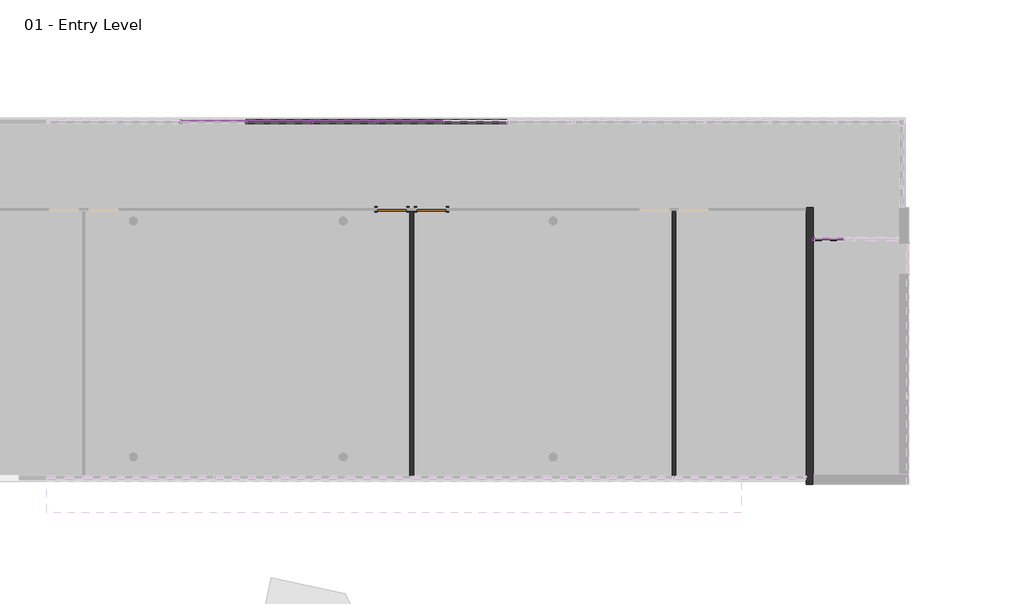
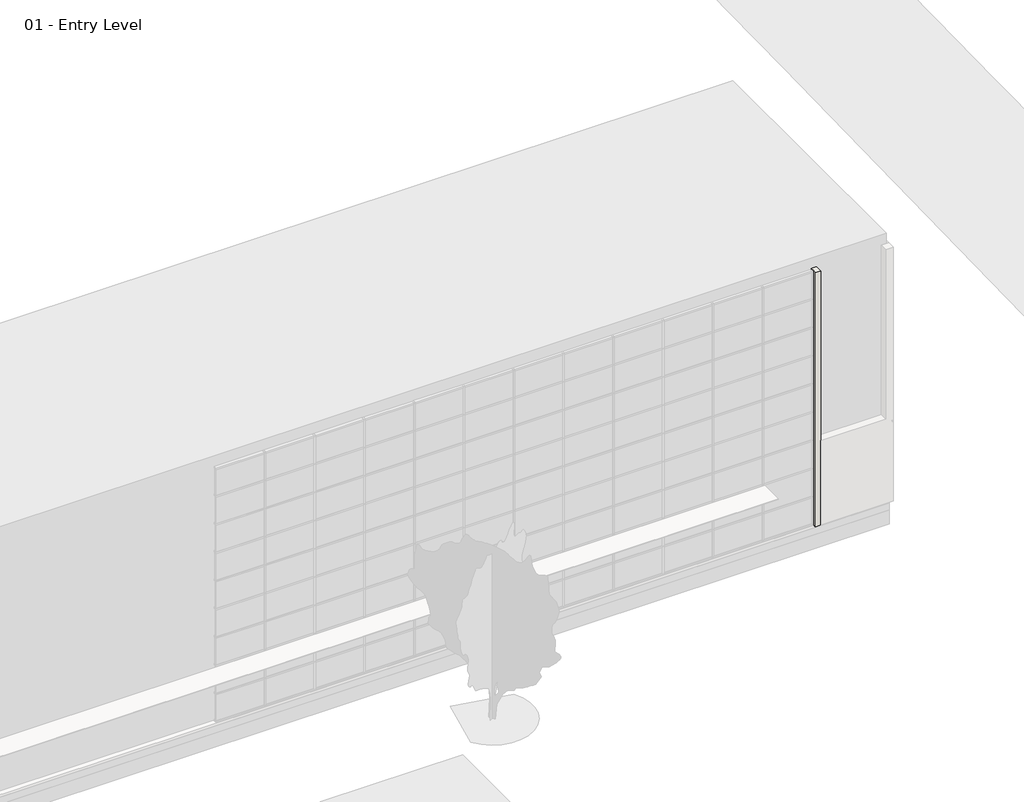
# One storey, part 20 of 35: 83 members, 38 plates, 3 doors, 3 walls.
"""IFC4 building model written with IfcOpenShell, lengths in millimetres."""

from ifc_helpers import new_model, si_unit, origin, origin_with_axes, place, context, project, spatial, polyline, outline, extrude, faceted_brep, transform, mapped, element, save
from components import curtain_wall_sgl_glass_curtain_wall_sgl_glass_ab2568d1, door_305aa2a5, door_e5f9f3c4, member_2b49869a, member_9193c932, member_391b434c, member_9e90ae50, member_c327c56d, member_a50b3cda, system_panel_glazed_1b9d6098, system_panel_glazed_70da479d, system_panel_glazed_63e32c76, system_panel_glazed_72fe8651

model = new_model("IFC4")

# Units and contexts
model_context = context("Model", 3, world=origin())
ifc_project = project(units=[si_unit("LENGTHUNIT", "METRE", prefix="MILLI")], contexts=[model_context])

# Site, building, storey
site = spatial("IfcSite", under=ifc_project)
building = spatial("IfcBuilding", under=site)
storey = spatial("IfcBuildingStorey", under=building, Name="01 - Entry Level", Elevation=0.0)

# Doors
placement = place(None, origin())
curtain_wall_sgl_glass_curtain_wall_sgl_glass_shape = curtain_wall_sgl_glass_curtain_wall_sgl_glass_ab2568d1(model_context)
element("IfcDoor", 1, ObjectType="Curtain Wall Sgl Glass : Curtain Wall Sgl Glass", at=placement, inside=storey, context=model_context, shape_type="MappedRepresentation", body=[
    mapped(curtain_wall_sgl_glass_curtain_wall_sgl_glass_shape, transform((63869.2207476, 7356.4, 0.0), x_axis=(-1.0, 0.0, 0.0), y_axis=(0.0, -1.0, 0.0), z_axis=(0.0, 0.0, 1.0))),
])
door_shape = door_305aa2a5(model_context)
element("IfcDoor", 2, ObjectType="Single-Flush : 36\" x 84\"", at=placement, inside=storey, context=model_context, shape_type="MappedRepresentation", body=[
    mapped(door_shape, transform((50305.6207476, 8277.15, 0.0), x_axis=(1.0, 0.0, 0.0), y_axis=(0.0, 1.0, 0.0), z_axis=(0.0, 0.0, 1.0))),
])
door_2_shape = door_e5f9f3c4(model_context)
element("IfcDoor", 3, ObjectType="Single-Flush : 36\" x 84\"", at=placement, inside=storey, context=model_context, shape_type="MappedRepresentation", body=[
    mapped(door_2_shape, transform((51524.8207476, 8277.15, 0.0), x_axis=(-1.0, 0.0, 0.0), y_axis=(0.0, -1.0, 0.0), z_axis=(0.0, 0.0, 1.0))),
])

# Members
member_shape = member_2b49869a(model_context)
element("IfcMember", 4, ObjectType="Rectangular Mullion : 2.5\" x 5\" rectangular", at=placement, inside=storey, context=model_context, shape_type="MappedRepresentation", body=[
    mapped(member_shape, transform((51880.4207476, 11001.3, 9753.6), x_axis=(-1.0, 0.0, 0.0), y_axis=(0.0, 1.0, 0.0), z_axis=(0.0, 0.0, -1.0))),
])
element("IfcMember", 5, ObjectType="Rectangular Mullion : 2.5\" x 5\" rectangular", at=placement, inside=storey, context=model_context, shape_type="MappedRepresentation", body=[
    mapped(member_shape, transform((49848.4207476, 11001.3, 9753.6), x_axis=(-1.0, 0.0, 0.0), y_axis=(0.0, 1.0, 0.0), z_axis=(0.0, 0.0, -1.0))),
])
element("IfcMember", 6, ObjectType="Rectangular Mullion : 2.5\" x 5\" rectangular", at=placement, inside=storey, context=model_context, shape_type="MappedRepresentation", body=[
    mapped(member_shape, transform((47816.4207476, 11001.3, 9753.6), x_axis=(-1.0, 0.0, 0.0), y_axis=(0.0, 1.0, 0.0), z_axis=(0.0, 0.0, -1.0))),
])
element("IfcMember", 7, ObjectType="Rectangular Mullion : 2.5\" x 5\" rectangular", at=placement, inside=storey, context=model_context, shape_type="MappedRepresentation", body=[
    mapped(member_shape, transform((45784.4207476, 11001.3, 9753.6), x_axis=(-1.0, 0.0, 0.0), y_axis=(0.0, 1.0, 0.0), z_axis=(0.0, 0.0, -1.0))),
])
element("IfcMember", 8, ObjectType="Rectangular Mullion : 2.5\" x 5\" rectangular", at=placement, inside=storey, context=model_context, shape_type="MappedRepresentation", body=[
    mapped(member_shape, transform((43752.4207476, 11001.3, 9753.6), x_axis=(-1.0, 0.0, 0.0), y_axis=(0.0, 1.0, 0.0), z_axis=(0.0, 0.0, -1.0))),
])
member_2_shape = member_9193c932(model_context)
element("IfcMember", 9, ObjectType="Rectangular Mullion : 2.5\" x 5\" rectangular", at=placement, inside=storey, context=model_context, shape_type="MappedRepresentation", body=[
    mapped(member_2_shape, transform((63348.5207476, 7356.4, 3403.6), x_axis=(-1.0, 0.0, 0.0), y_axis=(0.0, -1.0, 0.0), z_axis=(0.0, 0.0, 1.0))),
])
member_3_shape = member_391b434c(model_context)
element("IfcMember", 10, ObjectType="Rectangular Mullion : 2.5\" x 5\" rectangular", at=placement, inside=storey, context=model_context, shape_type="MappedRepresentation", body=[
    mapped(member_3_shape, transform((51912.1707476, 11001.3, 10972.8), x_axis=(0.0, 0.0, 1.0), y_axis=(0.0, 1.0, 0.0), z_axis=(-1.0, 0.0, 0.0))),
])
element("IfcMember", 11, ObjectType="Rectangular Mullion : 2.5\" x 5\" rectangular", at=placement, inside=storey, context=model_context, shape_type="MappedRepresentation", body=[
    mapped(member_3_shape, transform((49880.1707476, 11001.3, 10972.8), x_axis=(0.0, 0.0, 1.0), y_axis=(0.0, 1.0, 0.0), z_axis=(-1.0, 0.0, 0.0))),
])
element("IfcMember", 12, ObjectType="Rectangular Mullion : 2.5\" x 5\" rectangular", at=placement, inside=storey, context=model_context, shape_type="MappedRepresentation", body=[
    mapped(member_3_shape, transform((47848.1707476, 11001.3, 10972.8), x_axis=(0.0, 0.0, 1.0), y_axis=(0.0, 1.0, 0.0), z_axis=(-1.0, 0.0, 0.0))),
])
element("IfcMember", 13, ObjectType="Rectangular Mullion : 2.5\" x 5\" rectangular", at=placement, inside=storey, context=model_context, shape_type="MappedRepresentation", body=[
    mapped(member_3_shape, transform((45816.1707476, 11001.3, 10972.8), x_axis=(0.0, 0.0, 1.0), y_axis=(0.0, 1.0, 0.0), z_axis=(-1.0, 0.0, 0.0))),
])
element("IfcMember", 14, ObjectType="Rectangular Mullion : 2.5\" x 5\" rectangular", at=placement, inside=storey, context=model_context, shape_type="MappedRepresentation", body=[
    mapped(member_3_shape, transform((51848.6707476, 11001.3, 0.0), x_axis=(0.0, 0.0, -1.0), y_axis=(0.0, 1.0, 0.0), z_axis=(1.0, 0.0, 0.0))),
])
element("IfcMember", 15, ObjectType="Rectangular Mullion : 2.5\" x 5\" rectangular", at=placement, inside=storey, context=model_context, shape_type="MappedRepresentation", body=[
    mapped(member_3_shape, transform((49816.6707476, 11001.3, 0.0), x_axis=(0.0, 0.0, -1.0), y_axis=(0.0, 1.0, 0.0), z_axis=(1.0, 0.0, 0.0))),
])
element("IfcMember", 16, ObjectType="Rectangular Mullion : 2.5\" x 5\" rectangular", at=placement, inside=storey, context=model_context, shape_type="MappedRepresentation", body=[
    mapped(member_3_shape, transform((47784.6707476, 11001.3, 0.0), x_axis=(0.0, 0.0, -1.0), y_axis=(0.0, 1.0, 0.0), z_axis=(1.0, 0.0, 0.0))),
])
element("IfcMember", 17, ObjectType="Rectangular Mullion : 2.5\" x 5\" rectangular", at=placement, inside=storey, context=model_context, shape_type="MappedRepresentation", body=[
    mapped(member_3_shape, transform((45752.6707476, 11001.3, 0.0), x_axis=(0.0, 0.0, -1.0), y_axis=(0.0, 1.0, 0.0), z_axis=(1.0, 0.0, 0.0))),
])
member_4_shape = member_9e90ae50(model_context)
element("IfcMember", 18, ObjectType="Rectangular Mullion : 2.5\" x 5\" rectangular", at=placement, inside=storey, context=model_context, shape_type="MappedRepresentation", body=[
    mapped(member_4_shape, transform((51912.1707476, 11001.3, 1219.2), x_axis=(0.0, 0.0, 1.0), y_axis=(0.0, 1.0, 0.0), z_axis=(-1.0, 0.0, 0.0))),
])
element("IfcMember", 19, ObjectType="Rectangular Mullion : 2.5\" x 5\" rectangular", at=placement, inside=storey, context=model_context, shape_type="MappedRepresentation", body=[
    mapped(member_4_shape, transform((49880.1707476, 11001.3, 1219.2), x_axis=(0.0, 0.0, 1.0), y_axis=(0.0, 1.0, 0.0), z_axis=(-1.0, 0.0, 0.0))),
])
element("IfcMember", 20, ObjectType="Rectangular Mullion : 2.5\" x 5\" rectangular", at=placement, inside=storey, context=model_context, shape_type="MappedRepresentation", body=[
    mapped(member_4_shape, transform((47848.1707476, 11001.3, 1219.2), x_axis=(0.0, 0.0, 1.0), y_axis=(0.0, 1.0, 0.0), z_axis=(-1.0, 0.0, 0.0))),
])
element("IfcMember", 21, ObjectType="Rectangular Mullion : 2.5\" x 5\" rectangular", at=placement, inside=storey, context=model_context, shape_type="MappedRepresentation", body=[
    mapped(member_4_shape, transform((45816.1707476, 11001.3, 1219.2), x_axis=(0.0, 0.0, 1.0), y_axis=(0.0, 1.0, 0.0), z_axis=(-1.0, 0.0, 0.0))),
])
element("IfcMember", 22, ObjectType="Rectangular Mullion : 2.5\" x 5\" rectangular", at=placement, inside=storey, context=model_context, shape_type="MappedRepresentation", body=[
    mapped(member_4_shape, transform((51912.1707476, 11001.3, 2438.4), x_axis=(0.0, 0.0, 1.0), y_axis=(0.0, 1.0, 0.0), z_axis=(-1.0, 0.0, 0.0))),
])
element("IfcMember", 23, ObjectType="Rectangular Mullion : 2.5\" x 5\" rectangular", at=placement, inside=storey, context=model_context, shape_type="MappedRepresentation", body=[
    mapped(member_4_shape, transform((49880.1707476, 11001.3, 2438.4), x_axis=(0.0, 0.0, 1.0), y_axis=(0.0, 1.0, 0.0), z_axis=(-1.0, 0.0, 0.0))),
])
element("IfcMember", 24, ObjectType="Rectangular Mullion : 2.5\" x 5\" rectangular", at=placement, inside=storey, context=model_context, shape_type="MappedRepresentation", body=[
    mapped(member_4_shape, transform((47848.1707476, 11001.3, 2438.4), x_axis=(0.0, 0.0, 1.0), y_axis=(0.0, 1.0, 0.0), z_axis=(-1.0, 0.0, 0.0))),
])
element("IfcMember", 25, ObjectType="Rectangular Mullion : 2.5\" x 5\" rectangular", at=placement, inside=storey, context=model_context, shape_type="MappedRepresentation", body=[
    mapped(member_4_shape, transform((45816.1707476, 11001.3, 2438.4), x_axis=(0.0, 0.0, 1.0), y_axis=(0.0, 1.0, 0.0), z_axis=(-1.0, 0.0, 0.0))),
])
element("IfcMember", 26, ObjectType="Rectangular Mullion : 2.5\" x 5\" rectangular", at=placement, inside=storey, context=model_context, shape_type="MappedRepresentation", body=[
    mapped(member_4_shape, transform((51912.1707476, 11001.3, 3657.6), x_axis=(0.0, 0.0, 1.0), y_axis=(0.0, 1.0, 0.0), z_axis=(-1.0, 0.0, 0.0))),
])
element("IfcMember", 27, ObjectType="Rectangular Mullion : 2.5\" x 5\" rectangular", at=placement, inside=storey, context=model_context, shape_type="MappedRepresentation", body=[
    mapped(member_4_shape, transform((49880.1707476, 11001.3, 3657.6), x_axis=(0.0, 0.0, 1.0), y_axis=(0.0, 1.0, 0.0), z_axis=(-1.0, 0.0, 0.0))),
])
element("IfcMember", 28, ObjectType="Rectangular Mullion : 2.5\" x 5\" rectangular", at=placement, inside=storey, context=model_context, shape_type="MappedRepresentation", body=[
    mapped(member_4_shape, transform((47848.1707476, 11001.3, 3657.6), x_axis=(0.0, 0.0, 1.0), y_axis=(0.0, 1.0, 0.0), z_axis=(-1.0, 0.0, 0.0))),
])
element("IfcMember", 29, ObjectType="Rectangular Mullion : 2.5\" x 5\" rectangular", at=placement, inside=storey, context=model_context, shape_type="MappedRepresentation", body=[
    mapped(member_4_shape, transform((45816.1707476, 11001.3, 3657.6), x_axis=(0.0, 0.0, 1.0), y_axis=(0.0, 1.0, 0.0), z_axis=(-1.0, 0.0, 0.0))),
])
element("IfcMember", 30, ObjectType="Rectangular Mullion : 2.5\" x 5\" rectangular", at=placement, inside=storey, context=model_context, shape_type="MappedRepresentation", body=[
    mapped(member_4_shape, transform((51912.1707476, 11001.3, 4876.8), x_axis=(0.0, 0.0, 1.0), y_axis=(0.0, 1.0, 0.0), z_axis=(-1.0, 0.0, 0.0))),
])
element("IfcMember", 31, ObjectType="Rectangular Mullion : 2.5\" x 5\" rectangular", at=placement, inside=storey, context=model_context, shape_type="MappedRepresentation", body=[
    mapped(member_4_shape, transform((49880.1707476, 11001.3, 4876.8), x_axis=(0.0, 0.0, 1.0), y_axis=(0.0, 1.0, 0.0), z_axis=(-1.0, 0.0, 0.0))),
])
element("IfcMember", 32, ObjectType="Rectangular Mullion : 2.5\" x 5\" rectangular", at=placement, inside=storey, context=model_context, shape_type="MappedRepresentation", body=[
    mapped(member_4_shape, transform((47848.1707476, 11001.3, 4876.8), x_axis=(0.0, 0.0, 1.0), y_axis=(0.0, 1.0, 0.0), z_axis=(-1.0, 0.0, 0.0))),
])
element("IfcMember", 33, ObjectType="Rectangular Mullion : 2.5\" x 5\" rectangular", at=placement, inside=storey, context=model_context, shape_type="MappedRepresentation", body=[
    mapped(member_4_shape, transform((45816.1707476, 11001.3, 4876.8), x_axis=(0.0, 0.0, 1.0), y_axis=(0.0, 1.0, 0.0), z_axis=(-1.0, 0.0, 0.0))),
])
element("IfcMember", 34, ObjectType="Rectangular Mullion : 2.5\" x 5\" rectangular", at=placement, inside=storey, context=model_context, shape_type="MappedRepresentation", body=[
    mapped(member_4_shape, transform((51912.1707476, 11001.3, 6096.0), x_axis=(0.0, 0.0, 1.0), y_axis=(0.0, 1.0, 0.0), z_axis=(-1.0, 0.0, 0.0))),
])
element("IfcMember", 35, ObjectType="Rectangular Mullion : 2.5\" x 5\" rectangular", at=placement, inside=storey, context=model_context, shape_type="MappedRepresentation", body=[
    mapped(member_4_shape, transform((49880.1707476, 11001.3, 6096.0), x_axis=(0.0, 0.0, 1.0), y_axis=(0.0, 1.0, 0.0), z_axis=(-1.0, 0.0, 0.0))),
])
element("IfcMember", 36, ObjectType="Rectangular Mullion : 2.5\" x 5\" rectangular", at=placement, inside=storey, context=model_context, shape_type="MappedRepresentation", body=[
    mapped(member_4_shape, transform((47848.1707476, 11001.3, 6096.0), x_axis=(0.0, 0.0, 1.0), y_axis=(0.0, 1.0, 0.0), z_axis=(-1.0, 0.0, 0.0))),
])
element("IfcMember", 37, ObjectType="Rectangular Mullion : 2.5\" x 5\" rectangular", at=placement, inside=storey, context=model_context, shape_type="MappedRepresentation", body=[
    mapped(member_4_shape, transform((45816.1707476, 11001.3, 6096.0), x_axis=(0.0, 0.0, 1.0), y_axis=(0.0, 1.0, 0.0), z_axis=(-1.0, 0.0, 0.0))),
])
element("IfcMember", 38, ObjectType="Rectangular Mullion : 2.5\" x 5\" rectangular", at=placement, inside=storey, context=model_context, shape_type="MappedRepresentation", body=[
    mapped(member_4_shape, transform((51912.1707476, 11001.3, 7315.2), x_axis=(0.0, 0.0, 1.0), y_axis=(0.0, 1.0, 0.0), z_axis=(-1.0, 0.0, 0.0))),
])
element("IfcMember", 39, ObjectType="Rectangular Mullion : 2.5\" x 5\" rectangular", at=placement, inside=storey, context=model_context, shape_type="MappedRepresentation", body=[
    mapped(member_4_shape, transform((49880.1707476, 11001.3, 7315.2), x_axis=(0.0, 0.0, 1.0), y_axis=(0.0, 1.0, 0.0), z_axis=(-1.0, 0.0, 0.0))),
])
element("IfcMember", 40, ObjectType="Rectangular Mullion : 2.5\" x 5\" rectangular", at=placement, inside=storey, context=model_context, shape_type="MappedRepresentation", body=[
    mapped(member_4_shape, transform((47848.1707476, 11001.3, 7315.2), x_axis=(0.0, 0.0, 1.0), y_axis=(0.0, 1.0, 0.0), z_axis=(-1.0, 0.0, 0.0))),
])
element("IfcMember", 41, ObjectType="Rectangular Mullion : 2.5\" x 5\" rectangular", at=placement, inside=storey, context=model_context, shape_type="MappedRepresentation", body=[
    mapped(member_4_shape, transform((45816.1707476, 11001.3, 7315.2), x_axis=(0.0, 0.0, 1.0), y_axis=(0.0, 1.0, 0.0), z_axis=(-1.0, 0.0, 0.0))),
])
element("IfcMember", 42, ObjectType="Rectangular Mullion : 2.5\" x 5\" rectangular", at=placement, inside=storey, context=model_context, shape_type="MappedRepresentation", body=[
    mapped(member_4_shape, transform((51912.1707476, 11001.3, 8534.4), x_axis=(0.0, 0.0, 1.0), y_axis=(0.0, 1.0, 0.0), z_axis=(-1.0, 0.0, 0.0))),
])
element("IfcMember", 43, ObjectType="Rectangular Mullion : 2.5\" x 5\" rectangular", at=placement, inside=storey, context=model_context, shape_type="MappedRepresentation", body=[
    mapped(member_4_shape, transform((49880.1707476, 11001.3, 8534.4), x_axis=(0.0, 0.0, 1.0), y_axis=(0.0, 1.0, 0.0), z_axis=(-1.0, 0.0, 0.0))),
])
element("IfcMember", 44, ObjectType="Rectangular Mullion : 2.5\" x 5\" rectangular", at=placement, inside=storey, context=model_context, shape_type="MappedRepresentation", body=[
    mapped(member_4_shape, transform((47848.1707476, 11001.3, 8534.4), x_axis=(0.0, 0.0, 1.0), y_axis=(0.0, 1.0, 0.0), z_axis=(-1.0, 0.0, 0.0))),
])
element("IfcMember", 45, ObjectType="Rectangular Mullion : 2.5\" x 5\" rectangular", at=placement, inside=storey, context=model_context, shape_type="MappedRepresentation", body=[
    mapped(member_4_shape, transform((45816.1707476, 11001.3, 8534.4), x_axis=(0.0, 0.0, 1.0), y_axis=(0.0, 1.0, 0.0), z_axis=(-1.0, 0.0, 0.0))),
])
element("IfcMember", 46, ObjectType="Rectangular Mullion : 2.5\" x 5\" rectangular", at=placement, inside=storey, context=model_context, shape_type="MappedRepresentation", body=[
    mapped(member_4_shape, transform((51912.1707476, 11001.3, 9753.6), x_axis=(0.0, 0.0, 1.0), y_axis=(0.0, 1.0, 0.0), z_axis=(-1.0, 0.0, 0.0))),
])
element("IfcMember", 47, ObjectType="Rectangular Mullion : 2.5\" x 5\" rectangular", at=placement, inside=storey, context=model_context, shape_type="MappedRepresentation", body=[
    mapped(member_4_shape, transform((49880.1707476, 11001.3, 9753.6), x_axis=(0.0, 0.0, 1.0), y_axis=(0.0, 1.0, 0.0), z_axis=(-1.0, 0.0, 0.0))),
])
element("IfcMember", 48, ObjectType="Rectangular Mullion : 2.5\" x 5\" rectangular", at=placement, inside=storey, context=model_context, shape_type="MappedRepresentation", body=[
    mapped(member_4_shape, transform((47848.1707476, 11001.3, 9753.6), x_axis=(0.0, 0.0, 1.0), y_axis=(0.0, 1.0, 0.0), z_axis=(-1.0, 0.0, 0.0))),
])
element("IfcMember", 49, ObjectType="Rectangular Mullion : 2.5\" x 5\" rectangular", at=placement, inside=storey, context=model_context, shape_type="MappedRepresentation", body=[
    mapped(member_4_shape, transform((45816.1707476, 11001.3, 9753.6), x_axis=(0.0, 0.0, 1.0), y_axis=(0.0, 1.0, 0.0), z_axis=(-1.0, 0.0, 0.0))),
])
element("IfcMember", 50, ObjectType="Rectangular Mullion : 2.5\" x 5\" rectangular", at=placement, inside=storey, context=model_context, shape_type="MappedRepresentation", body=[
    mapped(member_shape, transform((51880.4207476, 11001.3, 0.0), x_axis=(-1.0, 0.0, 0.0), y_axis=(0.0, 1.0, 0.0), z_axis=(0.0, 0.0, -1.0))),
])
element("IfcMember", 51, ObjectType="Rectangular Mullion : 2.5\" x 5\" rectangular", at=placement, inside=storey, context=model_context, shape_type="MappedRepresentation", body=[
    mapped(member_shape, transform((49848.4207476, 11001.3, 0.0), x_axis=(-1.0, 0.0, 0.0), y_axis=(0.0, 1.0, 0.0), z_axis=(0.0, 0.0, -1.0))),
])
element("IfcMember", 52, ObjectType="Rectangular Mullion : 2.5\" x 5\" rectangular", at=placement, inside=storey, context=model_context, shape_type="MappedRepresentation", body=[
    mapped(member_shape, transform((47816.4207476, 11001.3, 0.0), x_axis=(-1.0, 0.0, 0.0), y_axis=(0.0, 1.0, 0.0), z_axis=(0.0, 0.0, -1.0))),
])
element("IfcMember", 53, ObjectType="Rectangular Mullion : 2.5\" x 5\" rectangular", at=placement, inside=storey, context=model_context, shape_type="MappedRepresentation", body=[
    mapped(member_shape, transform((45784.4207476, 11001.3, 0.0), x_axis=(-1.0, 0.0, 0.0), y_axis=(0.0, 1.0, 0.0), z_axis=(0.0, 0.0, -1.0))),
])
element("IfcMember", 54, ObjectType="Rectangular Mullion : 2.5\" x 5\" rectangular", at=placement, inside=storey, context=model_context, shape_type="MappedRepresentation", body=[
    mapped(member_shape, transform((51880.4207476, 11001.3, 1219.2), x_axis=(-1.0, 0.0, 0.0), y_axis=(0.0, 1.0, 0.0), z_axis=(0.0, 0.0, -1.0))),
])
element("IfcMember", 55, ObjectType="Rectangular Mullion : 2.5\" x 5\" rectangular", at=placement, inside=storey, context=model_context, shape_type="MappedRepresentation", body=[
    mapped(member_shape, transform((49848.4207476, 11001.3, 1219.2), x_axis=(-1.0, 0.0, 0.0), y_axis=(0.0, 1.0, 0.0), z_axis=(0.0, 0.0, -1.0))),
])
element("IfcMember", 56, ObjectType="Rectangular Mullion : 2.5\" x 5\" rectangular", at=placement, inside=storey, context=model_context, shape_type="MappedRepresentation", body=[
    mapped(member_shape, transform((47816.4207476, 11001.3, 1219.2), x_axis=(-1.0, 0.0, 0.0), y_axis=(0.0, 1.0, 0.0), z_axis=(0.0, 0.0, -1.0))),
])
element("IfcMember", 57, ObjectType="Rectangular Mullion : 2.5\" x 5\" rectangular", at=placement, inside=storey, context=model_context, shape_type="MappedRepresentation", body=[
    mapped(member_shape, transform((45784.4207476, 11001.3, 1219.2), x_axis=(-1.0, 0.0, 0.0), y_axis=(0.0, 1.0, 0.0), z_axis=(0.0, 0.0, -1.0))),
])
element("IfcMember", 58, ObjectType="Rectangular Mullion : 2.5\" x 5\" rectangular", at=placement, inside=storey, context=model_context, shape_type="MappedRepresentation", body=[
    mapped(member_shape, transform((51880.4207476, 11001.3, 2438.4), x_axis=(-1.0, 0.0, 0.0), y_axis=(0.0, 1.0, 0.0), z_axis=(0.0, 0.0, -1.0))),
])
element("IfcMember", 59, ObjectType="Rectangular Mullion : 2.5\" x 5\" rectangular", at=placement, inside=storey, context=model_context, shape_type="MappedRepresentation", body=[
    mapped(member_shape, transform((49848.4207476, 11001.3, 2438.4), x_axis=(-1.0, 0.0, 0.0), y_axis=(0.0, 1.0, 0.0), z_axis=(0.0, 0.0, -1.0))),
])
element("IfcMember", 60, ObjectType="Rectangular Mullion : 2.5\" x 5\" rectangular", at=placement, inside=storey, context=model_context, shape_type="MappedRepresentation", body=[
    mapped(member_shape, transform((47816.4207476, 11001.3, 2438.4), x_axis=(-1.0, 0.0, 0.0), y_axis=(0.0, 1.0, 0.0), z_axis=(0.0, 0.0, -1.0))),
])
element("IfcMember", 61, ObjectType="Rectangular Mullion : 2.5\" x 5\" rectangular", at=placement, inside=storey, context=model_context, shape_type="MappedRepresentation", body=[
    mapped(member_shape, transform((45784.4207476, 11001.3, 2438.4), x_axis=(-1.0, 0.0, 0.0), y_axis=(0.0, 1.0, 0.0), z_axis=(0.0, 0.0, -1.0))),
])
element("IfcMember", 62, ObjectType="Rectangular Mullion : 2.5\" x 5\" rectangular", at=placement, inside=storey, context=model_context, shape_type="MappedRepresentation", body=[
    mapped(member_shape, transform((51880.4207476, 11001.3, 3657.6), x_axis=(-1.0, 0.0, 0.0), y_axis=(0.0, 1.0, 0.0), z_axis=(0.0, 0.0, -1.0))),
])
element("IfcMember", 63, ObjectType="Rectangular Mullion : 2.5\" x 5\" rectangular", at=placement, inside=storey, context=model_context, shape_type="MappedRepresentation", body=[
    mapped(member_shape, transform((49848.4207476, 11001.3, 3657.6), x_axis=(-1.0, 0.0, 0.0), y_axis=(0.0, 1.0, 0.0), z_axis=(0.0, 0.0, -1.0))),
])
element("IfcMember", 64, ObjectType="Rectangular Mullion : 2.5\" x 5\" rectangular", at=placement, inside=storey, context=model_context, shape_type="MappedRepresentation", body=[
    mapped(member_shape, transform((47816.4207476, 11001.3, 3657.6), x_axis=(-1.0, 0.0, 0.0), y_axis=(0.0, 1.0, 0.0), z_axis=(0.0, 0.0, -1.0))),
])
element("IfcMember", 65, ObjectType="Rectangular Mullion : 2.5\" x 5\" rectangular", at=placement, inside=storey, context=model_context, shape_type="MappedRepresentation", body=[
    mapped(member_shape, transform((45784.4207476, 11001.3, 3657.6), x_axis=(-1.0, 0.0, 0.0), y_axis=(0.0, 1.0, 0.0), z_axis=(0.0, 0.0, -1.0))),
])
element("IfcMember", 66, ObjectType="Rectangular Mullion : 2.5\" x 5\" rectangular", at=placement, inside=storey, context=model_context, shape_type="MappedRepresentation", body=[
    mapped(member_shape, transform((51880.4207476, 11001.3, 4876.8), x_axis=(-1.0, 0.0, 0.0), y_axis=(0.0, 1.0, 0.0), z_axis=(0.0, 0.0, -1.0))),
])
element("IfcMember", 67, ObjectType="Rectangular Mullion : 2.5\" x 5\" rectangular", at=placement, inside=storey, context=model_context, shape_type="MappedRepresentation", body=[
    mapped(member_shape, transform((49848.4207476, 11001.3, 4876.8), x_axis=(-1.0, 0.0, 0.0), y_axis=(0.0, 1.0, 0.0), z_axis=(0.0, 0.0, -1.0))),
])
element("IfcMember", 68, ObjectType="Rectangular Mullion : 2.5\" x 5\" rectangular", at=placement, inside=storey, context=model_context, shape_type="MappedRepresentation", body=[
    mapped(member_shape, transform((47816.4207476, 11001.3, 4876.8), x_axis=(-1.0, 0.0, 0.0), y_axis=(0.0, 1.0, 0.0), z_axis=(0.0, 0.0, -1.0))),
])
element("IfcMember", 69, ObjectType="Rectangular Mullion : 2.5\" x 5\" rectangular", at=placement, inside=storey, context=model_context, shape_type="MappedRepresentation", body=[
    mapped(member_shape, transform((45784.4207476, 11001.3, 4876.8), x_axis=(-1.0, 0.0, 0.0), y_axis=(0.0, 1.0, 0.0), z_axis=(0.0, 0.0, -1.0))),
])
element("IfcMember", 70, ObjectType="Rectangular Mullion : 2.5\" x 5\" rectangular", at=placement, inside=storey, context=model_context, shape_type="MappedRepresentation", body=[
    mapped(member_shape, transform((51880.4207476, 11001.3, 6096.0), x_axis=(-1.0, 0.0, 0.0), y_axis=(0.0, 1.0, 0.0), z_axis=(0.0, 0.0, -1.0))),
])
element("IfcMember", 71, ObjectType="Rectangular Mullion : 2.5\" x 5\" rectangular", at=placement, inside=storey, context=model_context, shape_type="MappedRepresentation", body=[
    mapped(member_shape, transform((49848.4207476, 11001.3, 6096.0), x_axis=(-1.0, 0.0, 0.0), y_axis=(0.0, 1.0, 0.0), z_axis=(0.0, 0.0, -1.0))),
])
element("IfcMember", 72, ObjectType="Rectangular Mullion : 2.5\" x 5\" rectangular", at=placement, inside=storey, context=model_context, shape_type="MappedRepresentation", body=[
    mapped(member_shape, transform((47816.4207476, 11001.3, 6096.0), x_axis=(-1.0, 0.0, 0.0), y_axis=(0.0, 1.0, 0.0), z_axis=(0.0, 0.0, -1.0))),
])
element("IfcMember", 73, ObjectType="Rectangular Mullion : 2.5\" x 5\" rectangular", at=placement, inside=storey, context=model_context, shape_type="MappedRepresentation", body=[
    mapped(member_shape, transform((45784.4207476, 11001.3, 6096.0), x_axis=(-1.0, 0.0, 0.0), y_axis=(0.0, 1.0, 0.0), z_axis=(0.0, 0.0, -1.0))),
])
element("IfcMember", 74, ObjectType="Rectangular Mullion : 2.5\" x 5\" rectangular", at=placement, inside=storey, context=model_context, shape_type="MappedRepresentation", body=[
    mapped(member_shape, transform((43752.4207476, 11001.3, 6096.0), x_axis=(-1.0, 0.0, 0.0), y_axis=(0.0, 1.0, 0.0), z_axis=(0.0, 0.0, -1.0))),
])
element("IfcMember", 75, ObjectType="Rectangular Mullion : 2.5\" x 5\" rectangular", at=placement, inside=storey, context=model_context, shape_type="MappedRepresentation", body=[
    mapped(member_shape, transform((51880.4207476, 11001.3, 7315.2), x_axis=(-1.0, 0.0, 0.0), y_axis=(0.0, 1.0, 0.0), z_axis=(0.0, 0.0, -1.0))),
])
element("IfcMember", 76, ObjectType="Rectangular Mullion : 2.5\" x 5\" rectangular", at=placement, inside=storey, context=model_context, shape_type="MappedRepresentation", body=[
    mapped(member_shape, transform((49848.4207476, 11001.3, 7315.2), x_axis=(-1.0, 0.0, 0.0), y_axis=(0.0, 1.0, 0.0), z_axis=(0.0, 0.0, -1.0))),
])
element("IfcMember", 77, ObjectType="Rectangular Mullion : 2.5\" x 5\" rectangular", at=placement, inside=storey, context=model_context, shape_type="MappedRepresentation", body=[
    mapped(member_shape, transform((47816.4207476, 11001.3, 7315.2), x_axis=(-1.0, 0.0, 0.0), y_axis=(0.0, 1.0, 0.0), z_axis=(0.0, 0.0, -1.0))),
])
element("IfcMember", 78, ObjectType="Rectangular Mullion : 2.5\" x 5\" rectangular", at=placement, inside=storey, context=model_context, shape_type="MappedRepresentation", body=[
    mapped(member_shape, transform((45784.4207476, 11001.3, 7315.2), x_axis=(-1.0, 0.0, 0.0), y_axis=(0.0, 1.0, 0.0), z_axis=(0.0, 0.0, -1.0))),
])
element("IfcMember", 79, ObjectType="Rectangular Mullion : 2.5\" x 5\" rectangular", at=placement, inside=storey, context=model_context, shape_type="MappedRepresentation", body=[
    mapped(member_shape, transform((43752.4207476, 11001.3, 7315.2), x_axis=(-1.0, 0.0, 0.0), y_axis=(0.0, 1.0, 0.0), z_axis=(0.0, 0.0, -1.0))),
])
element("IfcMember", 80, ObjectType="Rectangular Mullion : 2.5\" x 5\" rectangular", at=placement, inside=storey, context=model_context, shape_type="MappedRepresentation", body=[
    mapped(member_shape, transform((51880.4207476, 11001.3, 8534.4), x_axis=(-1.0, 0.0, 0.0), y_axis=(0.0, 1.0, 0.0), z_axis=(0.0, 0.0, -1.0))),
])
element("IfcMember", 81, ObjectType="Rectangular Mullion : 2.5\" x 5\" rectangular", at=placement, inside=storey, context=model_context, shape_type="MappedRepresentation", body=[
    mapped(member_shape, transform((49848.4207476, 11001.3, 8534.4), x_axis=(-1.0, 0.0, 0.0), y_axis=(0.0, 1.0, 0.0), z_axis=(0.0, 0.0, -1.0))),
])
element("IfcMember", 82, ObjectType="Rectangular Mullion : 2.5\" x 5\" rectangular", at=placement, inside=storey, context=model_context, shape_type="MappedRepresentation", body=[
    mapped(member_shape, transform((47816.4207476, 11001.3, 8534.4), x_axis=(-1.0, 0.0, 0.0), y_axis=(0.0, 1.0, 0.0), z_axis=(0.0, 0.0, -1.0))),
])
element("IfcMember", 83, ObjectType="Rectangular Mullion : 2.5\" x 5\" rectangular", at=placement, inside=storey, context=model_context, shape_type="MappedRepresentation", body=[
    mapped(member_shape, transform((45784.4207476, 11001.3, 8534.4), x_axis=(-1.0, 0.0, 0.0), y_axis=(0.0, 1.0, 0.0), z_axis=(0.0, 0.0, -1.0))),
])
element("IfcMember", 84, ObjectType="Rectangular Mullion : 2.5\" x 5\" rectangular", at=placement, inside=storey, context=model_context, shape_type="MappedRepresentation", body=[
    mapped(member_shape, transform((43752.4207476, 11001.3, 8534.4), x_axis=(-1.0, 0.0, 0.0), y_axis=(0.0, 1.0, 0.0), z_axis=(0.0, 0.0, -1.0))),
])
member_5_shape = member_c327c56d(model_context)
element("IfcMember", 85, ObjectType="Rectangular Mullion : 2.5\" x 5\" rectangular", at=placement, inside=storey, context=model_context, shape_type="MappedRepresentation", body=[
    mapped(member_5_shape, transform((63348.5207476, 7356.4, 2438.4), x_axis=(-1.0, 0.0, 0.0), y_axis=(0.0, -1.0, 0.0), z_axis=(0.0, 0.0, 1.0))),
])
member_6_shape = member_a50b3cda(model_context)
element("IfcMember", 86, ObjectType="Rectangular Mullion : 2.5\" x 5\" rectangular", at=placement, inside=storey, context=model_context, shape_type="MappedRepresentation", body=[
    mapped(member_6_shape, transform((63348.5207476, 7356.4, 2165.35), x_axis=(-1.0, 0.0, 0.0), y_axis=(0.0, -1.0, 0.0), z_axis=(0.0, 0.0, 1.0))),
])

# Plates
system_panel_glazed_shape = system_panel_glazed_1b9d6098(model_context)
element("IfcPlate", 87, ObjectType="System Panel : Glazed", at=placement, inside=storey, context=model_context, shape_type="MappedRepresentation", body=[
    mapped(system_panel_glazed_shape, transform((50864.4207476, 11001.3, 63.5), x_axis=(-1.0, 0.0, 0.0), y_axis=(0.0, -1.0, 0.0), z_axis=(0.0, 0.0, 1.0))),
])
element("IfcPlate", 88, ObjectType="System Panel : Glazed", at=placement, inside=storey, context=model_context, shape_type="MappedRepresentation", body=[
    mapped(system_panel_glazed_shape, transform((48832.4207476, 11001.3, 63.5), x_axis=(-1.0, 0.0, 0.0), y_axis=(0.0, -1.0, 0.0), z_axis=(0.0, 0.0, 1.0))),
])
element("IfcPlate", 89, ObjectType="System Panel : Glazed", at=placement, inside=storey, context=model_context, shape_type="MappedRepresentation", body=[
    mapped(system_panel_glazed_shape, transform((46800.4207476, 11001.3, 63.5), x_axis=(-1.0, 0.0, 0.0), y_axis=(0.0, -1.0, 0.0), z_axis=(0.0, 0.0, 1.0))),
])
element("IfcPlate", 90, ObjectType="System Panel : Glazed", at=placement, inside=storey, context=model_context, shape_type="MappedRepresentation", body=[
    mapped(system_panel_glazed_shape, transform((44768.4207476, 11001.3, 63.5), x_axis=(-1.0, 0.0, 0.0), y_axis=(0.0, -1.0, 0.0), z_axis=(0.0, 0.0, 1.0))),
])
element("IfcPlate", 91, ObjectType="System Panel : Glazed", at=placement, inside=storey, context=model_context, shape_type="MappedRepresentation", body=[
    mapped(system_panel_glazed_shape, transform((50864.4207476, 11001.3, 9785.35), x_axis=(-1.0, 0.0, 0.0), y_axis=(0.0, -1.0, 0.0), z_axis=(0.0, 0.0, 1.0))),
])
element("IfcPlate", 92, ObjectType="System Panel : Glazed", at=placement, inside=storey, context=model_context, shape_type="MappedRepresentation", body=[
    mapped(system_panel_glazed_shape, transform((48832.4207476, 11001.3, 9785.35), x_axis=(-1.0, 0.0, 0.0), y_axis=(0.0, -1.0, 0.0), z_axis=(0.0, 0.0, 1.0))),
])
element("IfcPlate", 93, ObjectType="System Panel : Glazed", at=placement, inside=storey, context=model_context, shape_type="MappedRepresentation", body=[
    mapped(system_panel_glazed_shape, transform((46800.4207476, 11001.3, 9785.35), x_axis=(-1.0, 0.0, 0.0), y_axis=(0.0, -1.0, 0.0), z_axis=(0.0, 0.0, 1.0))),
])
element("IfcPlate", 94, ObjectType="System Panel : Glazed", at=placement, inside=storey, context=model_context, shape_type="MappedRepresentation", body=[
    mapped(system_panel_glazed_shape, transform((44768.4207476, 11001.3, 9785.35), x_axis=(-1.0, 0.0, 0.0), y_axis=(0.0, -1.0, 0.0), z_axis=(0.0, 0.0, 1.0))),
])
system_panel_glazed_2_shape = system_panel_glazed_70da479d(model_context)
element("IfcPlate", 95, ObjectType="System Panel : Glazed", at=placement, inside=storey, context=model_context, shape_type="MappedRepresentation", body=[
    mapped(system_panel_glazed_2_shape, transform((50864.4207476, 11001.3, 1250.95), x_axis=(-1.0, 0.0, 0.0), y_axis=(0.0, -1.0, 0.0), z_axis=(0.0, 0.0, 1.0))),
])
element("IfcPlate", 96, ObjectType="System Panel : Glazed", at=placement, inside=storey, context=model_context, shape_type="MappedRepresentation", body=[
    mapped(system_panel_glazed_2_shape, transform((48832.4207476, 11001.3, 1250.95), x_axis=(-1.0, 0.0, 0.0), y_axis=(0.0, -1.0, 0.0), z_axis=(0.0, 0.0, 1.0))),
])
element("IfcPlate", 97, ObjectType="System Panel : Glazed", at=placement, inside=storey, context=model_context, shape_type="MappedRepresentation", body=[
    mapped(system_panel_glazed_2_shape, transform((46800.4207476, 11001.3, 1250.95), x_axis=(-1.0, 0.0, 0.0), y_axis=(0.0, -1.0, 0.0), z_axis=(0.0, 0.0, 1.0))),
])
element("IfcPlate", 98, ObjectType="System Panel : Glazed", at=placement, inside=storey, context=model_context, shape_type="MappedRepresentation", body=[
    mapped(system_panel_glazed_2_shape, transform((44768.4207476, 11001.3, 1250.95), x_axis=(-1.0, 0.0, 0.0), y_axis=(0.0, -1.0, 0.0), z_axis=(0.0, 0.0, 1.0))),
])
element("IfcPlate", 99, ObjectType="System Panel : Glazed", at=placement, inside=storey, context=model_context, shape_type="MappedRepresentation", body=[
    mapped(system_panel_glazed_2_shape, transform((50864.4207476, 11001.3, 2470.15), x_axis=(-1.0, 0.0, 0.0), y_axis=(0.0, -1.0, 0.0), z_axis=(0.0, 0.0, 1.0))),
])
element("IfcPlate", 100, ObjectType="System Panel : Glazed", at=placement, inside=storey, context=model_context, shape_type="MappedRepresentation", body=[
    mapped(system_panel_glazed_2_shape, transform((48832.4207476, 11001.3, 2470.15), x_axis=(-1.0, 0.0, 0.0), y_axis=(0.0, -1.0, 0.0), z_axis=(0.0, 0.0, 1.0))),
])
element("IfcPlate", 101, ObjectType="System Panel : Glazed", at=placement, inside=storey, context=model_context, shape_type="MappedRepresentation", body=[
    mapped(system_panel_glazed_2_shape, transform((46800.4207476, 11001.3, 2470.15), x_axis=(-1.0, 0.0, 0.0), y_axis=(0.0, -1.0, 0.0), z_axis=(0.0, 0.0, 1.0))),
])
element("IfcPlate", 102, ObjectType="System Panel : Glazed", at=placement, inside=storey, context=model_context, shape_type="MappedRepresentation", body=[
    mapped(system_panel_glazed_2_shape, transform((44768.4207476, 11001.3, 2470.15), x_axis=(-1.0, 0.0, 0.0), y_axis=(0.0, -1.0, 0.0), z_axis=(0.0, 0.0, 1.0))),
])
element("IfcPlate", 103, ObjectType="System Panel : Glazed", at=placement, inside=storey, context=model_context, shape_type="MappedRepresentation", body=[
    mapped(system_panel_glazed_2_shape, transform((50864.4207476, 11001.3, 3689.35), x_axis=(-1.0, 0.0, 0.0), y_axis=(0.0, -1.0, 0.0), z_axis=(0.0, 0.0, 1.0))),
])
element("IfcPlate", 104, ObjectType="System Panel : Glazed", at=placement, inside=storey, context=model_context, shape_type="MappedRepresentation", body=[
    mapped(system_panel_glazed_2_shape, transform((48832.4207476, 11001.3, 3689.35), x_axis=(-1.0, 0.0, 0.0), y_axis=(0.0, -1.0, 0.0), z_axis=(0.0, 0.0, 1.0))),
])
element("IfcPlate", 105, ObjectType="System Panel : Glazed", at=placement, inside=storey, context=model_context, shape_type="MappedRepresentation", body=[
    mapped(system_panel_glazed_2_shape, transform((46800.4207476, 11001.3, 3689.35), x_axis=(-1.0, 0.0, 0.0), y_axis=(0.0, -1.0, 0.0), z_axis=(0.0, 0.0, 1.0))),
])
element("IfcPlate", 106, ObjectType="System Panel : Glazed", at=placement, inside=storey, context=model_context, shape_type="MappedRepresentation", body=[
    mapped(system_panel_glazed_2_shape, transform((44768.4207476, 11001.3, 3689.35), x_axis=(-1.0, 0.0, 0.0), y_axis=(0.0, -1.0, 0.0), z_axis=(0.0, 0.0, 1.0))),
])
element("IfcPlate", 107, ObjectType="System Panel : Glazed", at=placement, inside=storey, context=model_context, shape_type="MappedRepresentation", body=[
    mapped(system_panel_glazed_2_shape, transform((50864.4207476, 11001.3, 4908.55), x_axis=(-1.0, 0.0, 0.0), y_axis=(0.0, -1.0, 0.0), z_axis=(0.0, 0.0, 1.0))),
])
element("IfcPlate", 108, ObjectType="System Panel : Glazed", at=placement, inside=storey, context=model_context, shape_type="MappedRepresentation", body=[
    mapped(system_panel_glazed_2_shape, transform((48832.4207476, 11001.3, 4908.55), x_axis=(-1.0, 0.0, 0.0), y_axis=(0.0, -1.0, 0.0), z_axis=(0.0, 0.0, 1.0))),
])
element("IfcPlate", 109, ObjectType="System Panel : Glazed", at=placement, inside=storey, context=model_context, shape_type="MappedRepresentation", body=[
    mapped(system_panel_glazed_2_shape, transform((46800.4207476, 11001.3, 4908.55), x_axis=(-1.0, 0.0, 0.0), y_axis=(0.0, -1.0, 0.0), z_axis=(0.0, 0.0, 1.0))),
])
element("IfcPlate", 110, ObjectType="System Panel : Glazed", at=placement, inside=storey, context=model_context, shape_type="MappedRepresentation", body=[
    mapped(system_panel_glazed_2_shape, transform((44768.4207476, 11001.3, 4908.55), x_axis=(-1.0, 0.0, 0.0), y_axis=(0.0, -1.0, 0.0), z_axis=(0.0, 0.0, 1.0))),
])
element("IfcPlate", 111, ObjectType="System Panel : Glazed", at=placement, inside=storey, context=model_context, shape_type="MappedRepresentation", body=[
    mapped(system_panel_glazed_2_shape, transform((50864.4207476, 11001.3, 6127.75), x_axis=(-1.0, 0.0, 0.0), y_axis=(0.0, -1.0, 0.0), z_axis=(0.0, 0.0, 1.0))),
])
element("IfcPlate", 112, ObjectType="System Panel : Glazed", at=placement, inside=storey, context=model_context, shape_type="MappedRepresentation", body=[
    mapped(system_panel_glazed_2_shape, transform((48832.4207476, 11001.3, 6127.75), x_axis=(-1.0, 0.0, 0.0), y_axis=(0.0, -1.0, 0.0), z_axis=(0.0, 0.0, 1.0))),
])
element("IfcPlate", 113, ObjectType="System Panel : Glazed", at=placement, inside=storey, context=model_context, shape_type="MappedRepresentation", body=[
    mapped(system_panel_glazed_2_shape, transform((46800.4207476, 11001.3, 6127.75), x_axis=(-1.0, 0.0, 0.0), y_axis=(0.0, -1.0, 0.0), z_axis=(0.0, 0.0, 1.0))),
])
element("IfcPlate", 114, ObjectType="System Panel : Glazed", at=placement, inside=storey, context=model_context, shape_type="MappedRepresentation", body=[
    mapped(system_panel_glazed_2_shape, transform((44768.4207476, 11001.3, 6127.75), x_axis=(-1.0, 0.0, 0.0), y_axis=(0.0, -1.0, 0.0), z_axis=(0.0, 0.0, 1.0))),
])
element("IfcPlate", 115, ObjectType="System Panel : Glazed", at=placement, inside=storey, context=model_context, shape_type="MappedRepresentation", body=[
    mapped(system_panel_glazed_2_shape, transform((50864.4207476, 11001.3, 7346.95), x_axis=(-1.0, 0.0, 0.0), y_axis=(0.0, -1.0, 0.0), z_axis=(0.0, 0.0, 1.0))),
])
element("IfcPlate", 116, ObjectType="System Panel : Glazed", at=placement, inside=storey, context=model_context, shape_type="MappedRepresentation", body=[
    mapped(system_panel_glazed_2_shape, transform((48832.4207476, 11001.3, 7346.95), x_axis=(-1.0, 0.0, 0.0), y_axis=(0.0, -1.0, 0.0), z_axis=(0.0, 0.0, 1.0))),
])
element("IfcPlate", 117, ObjectType="System Panel : Glazed", at=placement, inside=storey, context=model_context, shape_type="MappedRepresentation", body=[
    mapped(system_panel_glazed_2_shape, transform((46800.4207476, 11001.3, 7346.95), x_axis=(-1.0, 0.0, 0.0), y_axis=(0.0, -1.0, 0.0), z_axis=(0.0, 0.0, 1.0))),
])
element("IfcPlate", 118, ObjectType="System Panel : Glazed", at=placement, inside=storey, context=model_context, shape_type="MappedRepresentation", body=[
    mapped(system_panel_glazed_2_shape, transform((44768.4207476, 11001.3, 7346.95), x_axis=(-1.0, 0.0, 0.0), y_axis=(0.0, -1.0, 0.0), z_axis=(0.0, 0.0, 1.0))),
])
element("IfcPlate", 119, ObjectType="System Panel : Glazed", at=placement, inside=storey, context=model_context, shape_type="MappedRepresentation", body=[
    mapped(system_panel_glazed_2_shape, transform((50864.4207476, 11001.3, 8566.15), x_axis=(-1.0, 0.0, 0.0), y_axis=(0.0, -1.0, 0.0), z_axis=(0.0, 0.0, 1.0))),
])
element("IfcPlate", 120, ObjectType="System Panel : Glazed", at=placement, inside=storey, context=model_context, shape_type="MappedRepresentation", body=[
    mapped(system_panel_glazed_2_shape, transform((48832.4207476, 11001.3, 8566.15), x_axis=(-1.0, 0.0, 0.0), y_axis=(0.0, -1.0, 0.0), z_axis=(0.0, 0.0, 1.0))),
])
element("IfcPlate", 121, ObjectType="System Panel : Glazed", at=placement, inside=storey, context=model_context, shape_type="MappedRepresentation", body=[
    mapped(system_panel_glazed_2_shape, transform((46800.4207476, 11001.3, 8566.15), x_axis=(-1.0, 0.0, 0.0), y_axis=(0.0, -1.0, 0.0), z_axis=(0.0, 0.0, 1.0))),
])
element("IfcPlate", 122, ObjectType="System Panel : Glazed", at=placement, inside=storey, context=model_context, shape_type="MappedRepresentation", body=[
    mapped(system_panel_glazed_2_shape, transform((44768.4207476, 11001.3, 8566.15), x_axis=(-1.0, 0.0, 0.0), y_axis=(0.0, -1.0, 0.0), z_axis=(0.0, 0.0, 1.0))),
])
system_panel_glazed_3_shape = system_panel_glazed_63e32c76(model_context)
element("IfcPlate", 123, ObjectType="System Panel : Glazed", at=placement, inside=storey, context=model_context, shape_type="MappedRepresentation", body=[
    mapped(system_panel_glazed_3_shape, transform((63869.2207476, 7356.4, 2470.15), x_axis=(1.0, 0.0, 0.0), y_axis=(0.0, 1.0, 0.0), z_axis=(0.0, 0.0, 1.0))),
])
system_panel_glazed_4_shape = system_panel_glazed_72fe8651(model_context)
element("IfcPlate", 124, ObjectType="System Panel : Glazed", at=placement, inside=storey, context=model_context, shape_type="MappedRepresentation", body=[
    mapped(system_panel_glazed_4_shape, transform((63869.2207476, 7356.4, 2197.1), x_axis=(1.0, 0.0, 0.0), y_axis=(0.0, 1.0, 0.0), z_axis=(0.0, 0.0, 1.0))),
])

# Walls
element("IfcWall", 125, ObjectType="Stair Core Walls", at=placement, inside=storey, context=model_context, shape_type="Brep", body=[
    faceted_brep([(63356.4582476, -254.075, 0.0), (63356.4582476, 53.9, 0.0), (63356.4582476, 8334.3, 0.0), (63356.4582476, 8334.3, 10972.8), (63356.4582476, -254.075, 10972.8), (63356.4582476, -254.075, 3657.6), (63137.3832476, -254.075, 0.0), (63137.3832476, -254.075, 10972.8), (63137.3832476, 8220.0, 10972.8), (63137.3832476, 8334.3, 10972.8), (63137.3832476, 8334.3, 7315.2), (63137.3832476, 8334.3, 7061.2), (63137.3832476, 8334.3, 3657.6), (63137.3832476, 8334.3, 3403.6), (63137.3832476, 8334.3, 0.0), (63137.3832476, 8220.0, 0.0)], [[[0, 1, 2, 3, 4, 5]], [[6, 7, 8, 9, 10, 11, 12, 13, 14, 15]], [[2, 1, 0, 6, 15, 14]], [[4, 3, 9, 8, 7]], [[0, 5, 4, 7, 6]], [[2, 14, 13, 12, 11, 10, 9, 3]]]),
])
element("IfcWall", 126, ObjectType="Typ. Partition Wall", at=placement, inside=storey, context=model_context, shape_type="SweptSolid", body=[
    extrude(outline(polyline([(50972.3707476, 8220.0), (50972.3707476, 15.8), (50858.0707476, 15.8), (50858.0707476, 8220.0), (50972.3707476, 8220.0)])), origin_with_axes(), (0.0, 0.0, 1.0), 3403.6),
])
element("IfcWall", 127, ObjectType="Typ. Partition Wall", at=placement, inside=storey, context=model_context, shape_type="SweptSolid", body=[
    extrude(outline(polyline([(59100.3707476, 8220.0), (59100.3707476, 15.8), (58986.0707476, 15.8), (58986.0707476, 8220.0), (59100.3707476, 8220.0)])), origin_with_axes(), (0.0, 0.0, 1.0), 3403.6),
])

save(model, "model.ifc")
